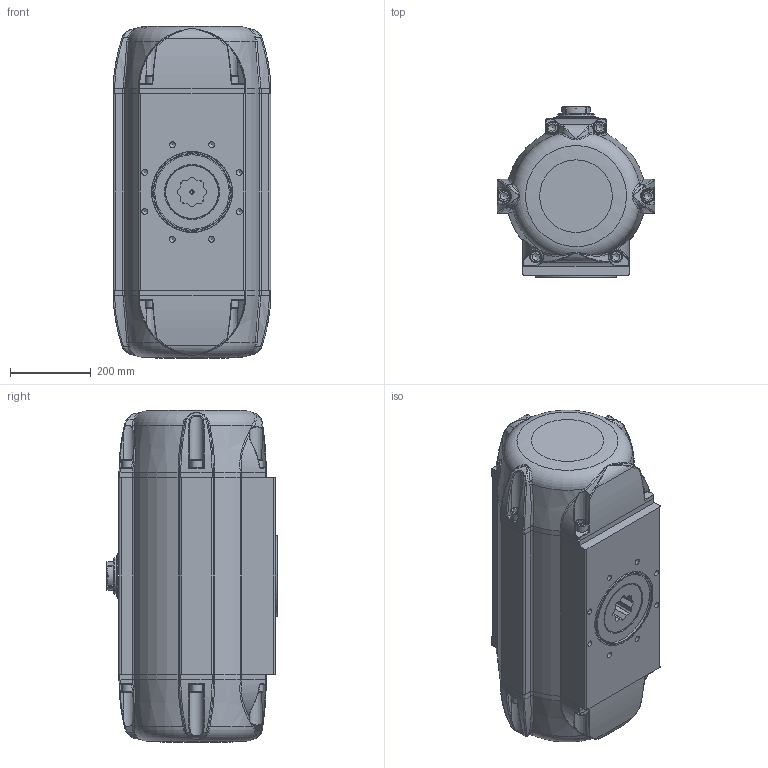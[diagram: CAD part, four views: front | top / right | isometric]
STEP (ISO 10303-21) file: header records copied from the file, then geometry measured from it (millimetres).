
FILE_DESCRIPTION((''),'2;1');
FILE_NAME('Y:\DOKUMENTATION ANTRIEBSPROGRAMM\AKTUELLES ANTRIEBSPROGRAMM\BR03_SAD_SAF_90°_Standard\STEP-Dateien\50\SAF 50 BR03.stp','2018-09-10T07:57:35',('mkl'),(''),'Autodesk Inventor 2013','Autodesk Inventor 2013','');
FILE_SCHEMA(('AUTOMOTIVE_DESIGN { 1 0 10303 214 1 1 1 1 }'));
Length unit declared in the file: millimetre
Products named in the file (1): ENG-051526_Shrinkwrap_1
Bounding box: 390 x 424 x 823 mm (x, y, z)
Surface area: 1491919.6 mm2 (no closed solid volume)
Topology: 0 solids, 52 shells, 508 faces, 2123 edges, 1607 vertices
Faces by surface type: plane 180, cylinder 161, bspline 104, cone 40, torus 23
Full cylindrical faces by diameter (mm): 4.134 x2, 4.917 x3, 13.835 x2, 14.376 x8, 18.631 x2, 30 x12, 70 x2, 89.8 x1, 130 x1, 190 x1, 199.6 x1
Entity records: 28400 total; most frequent: CARTESIAN_POINT 12416, ORIENTED_EDGE 2919, DIRECTION 2688, EDGE_CURVE 1994, VERTEX_POINT 1571, AXIS2_PLACEMENT_3D 993, VECTOR 702, LINE 702
